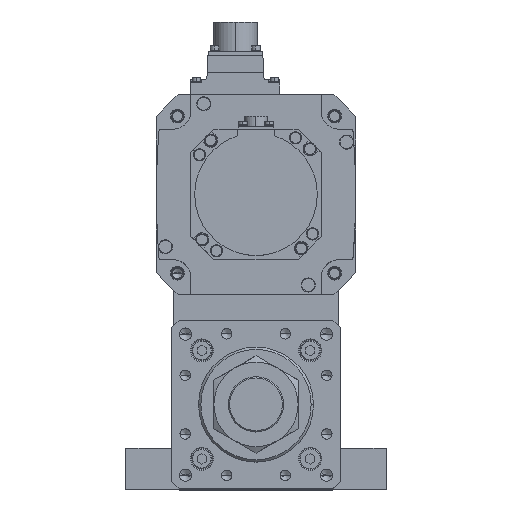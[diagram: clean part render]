
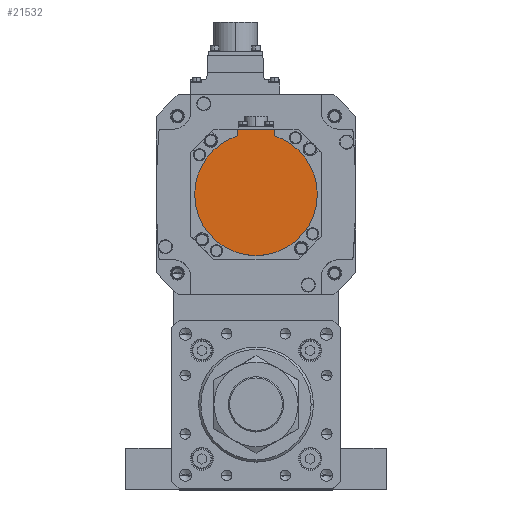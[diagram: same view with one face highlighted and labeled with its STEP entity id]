
A CAD part, top view. The second image highlights one B-rep face of the part: STEP entity #21532.
In plain terms, the highlighted planar face has unit normal (0, 0, 1) as drawn and (0, 0, -1) by its records, which use the part's own axes.
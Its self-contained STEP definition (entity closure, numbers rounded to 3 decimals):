
#3174 = EDGE_CURVE ( 'NONE', #19199, #12318, #15861, .T. ) ;
#3733 = ORIENTED_EDGE ( 'NONE', *, *, #25871, .T. ) ;
#4014 = CARTESIAN_POINT ( 'NONE',  ( 0., 0., -132.5 ) ) ;
#4632 = AXIS2_PLACEMENT_3D ( 'NONE', #30082, #5584, #27427 ) ;
#5136 = CARTESIAN_POINT ( 'NONE',  ( 0., -1.249, -132.5 ) ) ;
#5584 = DIRECTION ( 'NONE',  ( 0., 0., 1. ) ) ;
#7475 = ORIENTED_EDGE ( 'NONE', *, *, #11789, .F. ) ;
#8118 = LINE ( 'NONE', #12021, #14513 ) ;
#9888 = LINE ( 'NONE', #27423, #28277 ) ;
#9990 = VERTEX_POINT ( 'NONE', #11846 ) ;
#10660 = AXIS2_PLACEMENT_3D ( 'NONE', #5136, #13331, #19187 ) ;
#10743 = EDGE_CURVE ( 'NONE', #9990, #26273, #25784, .T. ) ;
#11281 = ORIENTED_EDGE ( 'NONE', *, *, #32036, .F. ) ;
#11789 = EDGE_CURVE ( 'NONE', #32704, #22467, #21427, .T. ) ;
#11846 = CARTESIAN_POINT ( 'NONE',  ( 12., -42.5, -132.5 ) ) ;
#12021 = CARTESIAN_POINT ( 'NONE',  ( -12., -40.329, -132.5 ) ) ;
#12318 = VERTEX_POINT ( 'NONE', #12848 ) ;
#12848 = CARTESIAN_POINT ( 'NONE',  ( 40., 0., -132.5 ) ) ;
#12975 = CARTESIAN_POINT ( 'NONE',  ( -12., -38.158, -132.5 ) ) ;
#13331 = DIRECTION ( 'NONE',  ( 0., 0., 1. ) ) ;
#14513 = VECTOR ( 'NONE', #25321, 1000. ) ;
#15287 = EDGE_LOOP ( 'NONE', ( #3733, #7475, #28446, #23664, #11281, #16558 ) ) ;
#15861 = CIRCLE ( 'NONE', #30685, 40. ) ;
#16558 = ORIENTED_EDGE ( 'NONE', *, *, #10743, .T. ) ;
#16677 = CIRCLE ( 'NONE', #21277, 40. ) ;
#16910 = CARTESIAN_POINT ( 'NONE',  ( 12., -38.158, -132.5 ) ) ;
#17184 = DIRECTION ( 'NONE',  ( 1., 0., 0. ) ) ;
#18564 = CARTESIAN_POINT ( 'NONE',  ( 0., -42.5, -132.5 ) ) ;
#18718 = PLANE ( 'NONE',  #10660 ) ;
#19187 = DIRECTION ( 'NONE',  ( 1., 0., 0. ) ) ;
#19199 = VERTEX_POINT ( 'NONE', #16910 ) ;
#19729 = DIRECTION ( 'NONE',  ( 0., 0., 1. ) ) ;
#20474 = DIRECTION ( 'NONE',  ( 0., 0., 1. ) ) ;
#21078 = VECTOR ( 'NONE', #35265, 1000. ) ;
#21277 = AXIS2_PLACEMENT_3D ( 'NONE', #4014, #20474, #28710 ) ;
#21427 = CIRCLE ( 'NONE', #4632, 40. ) ;
#21532 = ADVANCED_FACE ( 'NONE', ( #35307 ), #18718, .F. ) ;
#21578 = DIRECTION ( 'NONE',  ( 0., 1., 0. ) ) ;
#22467 = VERTEX_POINT ( 'NONE', #12975 ) ;
#23664 = ORIENTED_EDGE ( 'NONE', *, *, #3174, .F. ) ;
#25262 = EDGE_CURVE ( 'NONE', #12318, #32704, #16677, .T. ) ;
#25321 = DIRECTION ( 'NONE',  ( 0., 1., 0. ) ) ;
#25369 = CARTESIAN_POINT ( 'NONE',  ( 0., 0., -132.5 ) ) ;
#25784 = LINE ( 'NONE', #18564, #21078 ) ;
#25871 = EDGE_CURVE ( 'NONE', #26273, #22467, #8118, .T. ) ;
#26273 = VERTEX_POINT ( 'NONE', #29706 ) ;
#27423 = CARTESIAN_POINT ( 'NONE',  ( 12., -1.249, -132.5 ) ) ;
#27427 = DIRECTION ( 'NONE',  ( 1., 0., 0. ) ) ;
#28277 = VECTOR ( 'NONE', #21578, 1000. ) ;
#28446 = ORIENTED_EDGE ( 'NONE', *, *, #25262, .F. ) ;
#28710 = DIRECTION ( 'NONE',  ( 1., 0., 0. ) ) ;
#29706 = CARTESIAN_POINT ( 'NONE',  ( -12., -42.5, -132.5 ) ) ;
#30082 = CARTESIAN_POINT ( 'NONE',  ( 0., 0., -132.5 ) ) ;
#30685 = AXIS2_PLACEMENT_3D ( 'NONE', #25369, #19729, #17184 ) ;
#32036 = EDGE_CURVE ( 'NONE', #9990, #19199, #9888, .T. ) ;
#32704 = VERTEX_POINT ( 'NONE', #33273 ) ;
#33273 = CARTESIAN_POINT ( 'NONE',  ( -40., 0., -132.5 ) ) ;
#35265 = DIRECTION ( 'NONE',  ( -1., 0., 0. ) ) ;
#35307 = FACE_OUTER_BOUND ( 'NONE', #15287, .T. ) ;
